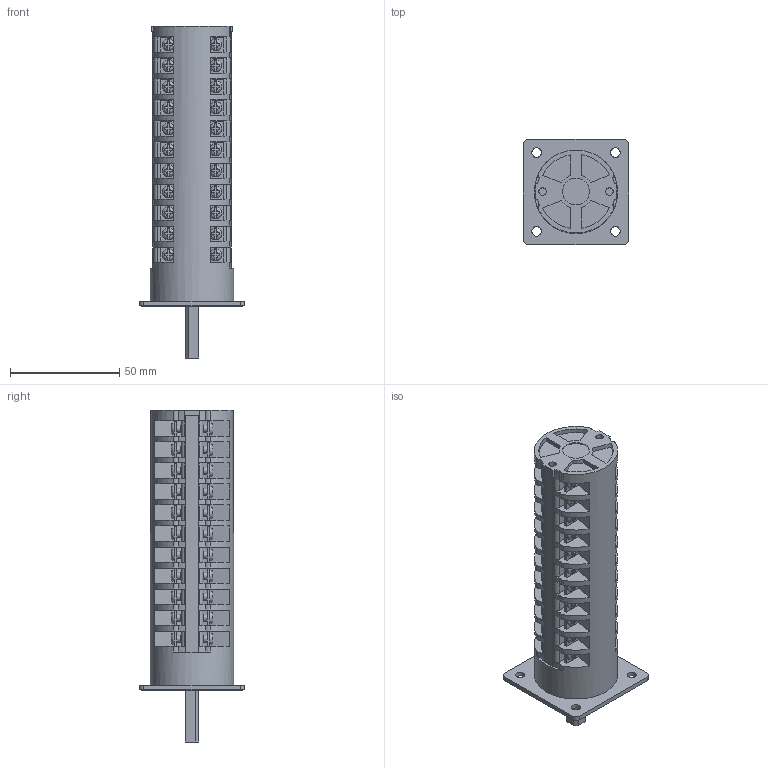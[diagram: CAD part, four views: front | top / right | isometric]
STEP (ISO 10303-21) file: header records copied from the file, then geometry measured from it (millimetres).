
FILE_DESCRIPTION(/* description */ (''),/* implementation_level */ '2;1');
FILE_NAME(/* name */ '4G10-U_standard_11_korpusow.stp',/* time_stamp */ '2021-07-21T08:01:55+02:00',/* author */ (''),/* organization */ (''),/* preprocessor_version */ 'ST-DEVELOPER v18.1',/* originating_system */ 'SIEMENS PLM Software NX 1965',/* authorisation */ '');
FILE_SCHEMA (('AUTOMOTIVE_DESIGN { 1 0 10303 214 3 1 1 1 }'));
Length unit declared in the file: millimetre
Products named in the file (1): 4G10-U_standard_11_korpusow_stp
Bounding box: 48 x 48 x 151.7 mm (x, y, z)
Volume: 119494.7 mm3; surface area: 39823.7 mm2
Topology: 1 solids, 1 shells, 1425 faces, 3950 edges, 2640 vertices
Faces by surface type: plane 1182, cylinder 197, bspline 44, torus 2
Full cylindrical faces by diameter (mm): 3.2 x44, 3.4 x3, 4.3 x4, 6.2 x2, 7.2 x4, 12.3 x1, 16.2 x1, 16.8 x1, 38 x1
Entity records: 45559 total; most frequent: CARTESIAN_POINT 10237, ORIENTED_EDGE 7494, DIRECTION 6957, EDGE_CURVE 3747, VERTEX_POINT 2544, LINE 2413, VECTOR 2413, AXIS2_PLACEMENT_3D 2272
